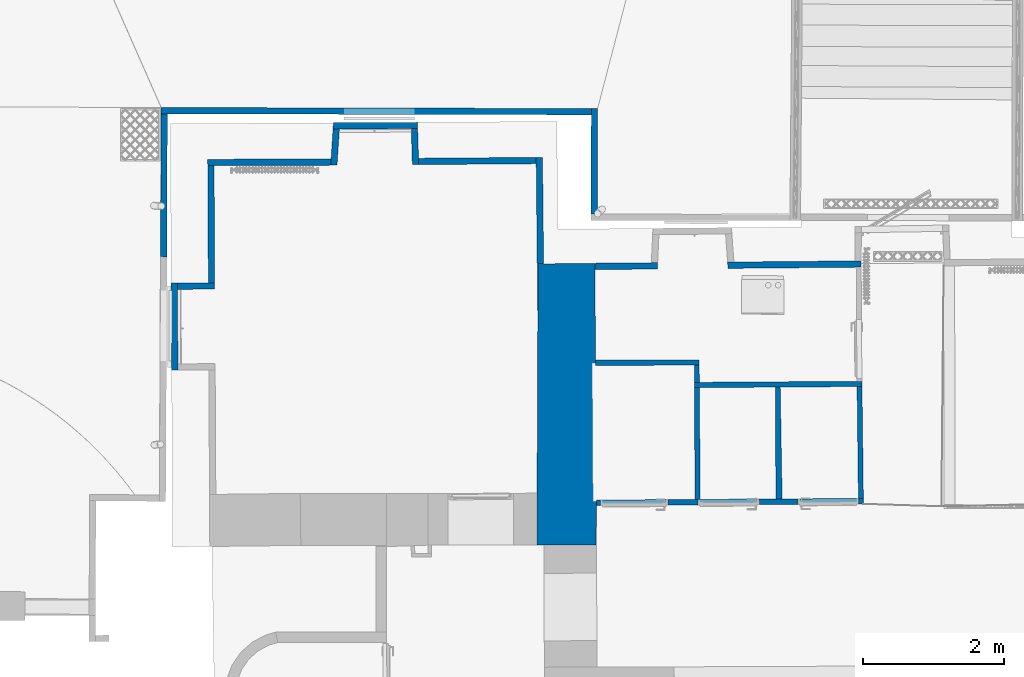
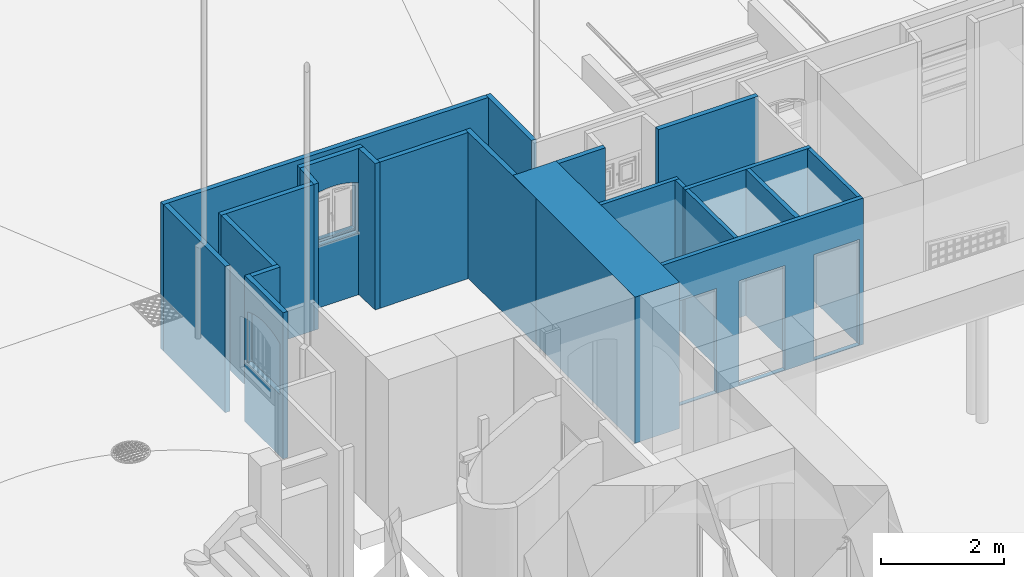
# One storey, part 26 of 133: 22 walls, 6 openings.
"""IFC2X3 building model written with IfcOpenShell, lengths in centimetres."""

from ifc_helpers import new_model, entity, si_unit, converted_unit, point, direction, frame, frame_2d, origin, origin_with_axes, origin_2d_with_axis, place, context, subcontext, project, spatial, polyline, circle_curve, trimmed, segment, composite_curve, rectangle, outline, extrude, shape, material, layer, layer_set, layer_usage, type_object, element, save


model = new_model("IFC2X3")

# Units and contexts
model_context = context("Model", 3, precision=0.0001, world=origin(), true_north=direction((0.225632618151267, 0.974212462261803, 0.0)))
body_context = subcontext(model_context, "Body", "Model", "MODEL_VIEW")
footprint_context = subcontext(model_context, "FootPrint", "Model", "MODEL_VIEW")
profile_context = subcontext(model_context, "Profile", "Model", "MODEL_VIEW")
ifc_project = project(units=[si_unit("LENGTHUNIT", "METRE", prefix="CENTI"), si_unit("AREAUNIT", "SQUARE_METRE", prefix="CENTI"), si_unit("VOLUMEUNIT", "CUBIC_METRE", prefix="CENTI"), converted_unit("PLANEANGLEUNIT", "DEGREE", entity("IfcRatioMeasure", 0.0174532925), si_unit("PLANEANGLEUNIT", "RADIAN"), dimensions=[0, 0, 0, 0, 0, 0, 0])], contexts=[model_context])

# Site, building, storey
site_placement = place(None, origin_with_axes())
site = spatial("IfcSite", under=ifc_project, at=site_placement, Name="Default Site", CompositionType="ELEMENT")
building_placement = place(site_placement, origin_with_axes())
building = spatial("IfcBuilding", under=site, at=building_placement, Name="Default Building", CompositionType="ELEMENT")
storey_placement = place(building_placement, frame((0.0, 0.0, -291.400371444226), z_axis=(0.0, 0.0, 1.0), x_axis=(1.0, 0.0, 0.0)))
storey = spatial("IfcBuildingStorey", under=building, at=storey_placement, Name="Rez-de-Jardin", CompositionType="ELEMENT", Elevation=-291.400371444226)

# Walls
ifc_material = material(Name="<aucun>")
ifc_layer_1 = layer(ifc_material, 9.0)
ifc_layer_set_1 = layer_set([ifc_layer_1], Name="default")
ifc_layer_usage_1 = layer_usage(ifc_layer_set_1, "AXIS2", "POSITIVE", -4.5)
wall_type_1 = type_object("IfcWallType", Name="default 90", PredefinedType="NOTDEFINED", material=ifc_layer_set_1)
wall_1_placement = place(storey_placement, frame((-1193.24993686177, 512.636162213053, 7.72715225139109e-12), z_axis=(0.0, 0.0, 1.0), x_axis=(-0.00529728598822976, 0.999985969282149, 0.0)))
element("IfcWallStandardCase", 1, at=wall_1_placement, inside=storey, type_object=wall_type_1, material=ifc_layer_usage_1, Name="Enveloppe 780002", context=body_context, shape_type="SweptSolid", body=[
    extrude(outline(polyline([(175.680894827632, 4.5000000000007), (9.00429015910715, 4.49999999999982), (9.00429015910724, -4.50000000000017), (175.66401218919, -4.49999999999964), (175.680894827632, 4.5000000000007)])), frame((0.0, 0.0, -8.88178419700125e-14), z_axis=(0.0, 0.0, 1.0), x_axis=(1.0, 0.0, 0.0)), (0.0, 0.0, 1.0), 291.413221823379),
])
ifc_layer_usage_2 = layer_usage(ifc_layer_set_1, "AXIS2", "POSITIVE", -4.5)
wall_2_placement = place(storey_placement, frame((-903.160273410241, 689.838524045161, 7.54951656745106e-12), z_axis=(0.0, 0.0, 1.0), x_axis=(-0.0288938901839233, 0.99958248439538, 0.0)))
element("IfcWallStandardCase", 2, at=wall_2_placement, inside=storey, type_object=wall_type_1, material=ifc_layer_usage_2, Name="Enveloppe 778648", context=body_context, shape_type="SweptSolid", body=[
    extrude(outline(polyline([(51.3159571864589, 4.49999999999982), (1.77635683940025e-13, 4.49999999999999), (-0.190743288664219, -4.49999999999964), (51.3159571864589, -4.50000000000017), (51.3159571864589, 4.49999999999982)])), frame((0.0, 0.0, -8.88178419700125e-14), z_axis=(0.0, 0.0, 1.0), x_axis=(1.0, 0.0, 0.0)), (0.0, 0.0, 1.0), 291.413221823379),
])

# Wall, opening
ifc_layer_usage_3 = layer_usage(ifc_layer_set_1, "AXIS2", "POSITIVE", -4.5)
wall_3_placement = place(storey_placement, frame((-1015.65714881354, 744.865025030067, -1.94511073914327e-11), z_axis=(0.0, 0.0, 1.0), x_axis=(0.999982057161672, 0.0059904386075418, 0.0)))
wall_3 = element("IfcWallStandardCase", 3, at=wall_3_placement, inside=storey, type_object=wall_type_1, material=ifc_layer_usage_3, Name="Enveloppe 778649", context=body_context, shape_type="SweptSolid", body=[
    extrude(outline(polyline([(-4.82939525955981, -4.50000000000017), (106.490990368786, -4.49999999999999), (115.4886290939, -4.29385109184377), (115.287149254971, 4.49999999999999), (-4.19307157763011, 4.4999999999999), (-4.82939525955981, -4.50000000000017)])), frame((0.0, 0.0, 4.44089209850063e-14), z_axis=(0.0, 0.0, 1.0), x_axis=(1.0, 0.0, 0.0)), (0.0, 0.0, 1.0), 291.413221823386),
])
opening_1_placement = place(wall_3_placement, frame((7.85032717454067, 1.13686837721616e-13, 126.689228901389), z_axis=(0.0, 0.0, 1.0), x_axis=(-1.0, -5.53376788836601e-16, 0.0)))
cartesian_point_1 = entity("IfcCartesianPoint", [0.0, 0.0, 97.0])
cartesian_point_2 = entity("IfcCartesianPoint", [-97.3437902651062, 8.88178419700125e-14, 97.0])
cartesian_point_3 = entity("IfcCartesianPoint", [-97.3437902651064, -4.49999999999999])
element("IfcOpeningElement", 4, at=opening_1_placement, cuts=wall_3, Name="4294966465_12", ObjectType="Opening", shapes=[
    shape(body_context, "Body", "SweptSolid", [extrude(outline(composite_curve([segment(polyline([(0.0, 97.0), (0.0, -3.00000000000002), (97.3437902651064, -3.00000000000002), (97.3437902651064, 97.0)]), True, "CONTINUOUS"), segment(trimmed(circle_curve(frame_2d((48.6718951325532, -21.0173198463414), x_axis=(1.0, 0.0)), 127.659865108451), [point((97.3437902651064, 97.0))], [point((0.0, 97.0))], True, "CARTESIAN"), True, "CONTINUOUS")], self_intersect=False)), frame((0.0, -14.5, 0.0), z_axis=(0.0, 1.0, 0.0), x_axis=(-1.0, 0.0, 0.0)), (0.0, 0.0, 1.0), 29.0)]),
    shape(profile_context, "Profile", "GeometricCurveSet", [entity("IfcGeometricCurveSet", [entity("IfcCompositeCurve", [entity("IfcCompositeCurveSegment", "CONTINUOUS", True, entity("IfcPolyline", [cartesian_point_1, entity("IfcCartesianPoint", [0.0, 0.0, -2.22044604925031e-14]), entity("IfcCartesianPoint", [-97.3437902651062, 8.88178419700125e-14, -2.22044604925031e-14]), cartesian_point_2])), entity("IfcCompositeCurveSegment", "CONTINUOUS", True, entity("IfcTrimmedCurve", entity("IfcCircle", entity("IfcAxis2Placement3D", entity("IfcCartesianPoint", [-48.6718951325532, 0.0, -21.0173198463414]), entity("IfcDirection", [9.1241405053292e-16, 1.0, 4.60551854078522e-15]), entity("IfcDirection", [1.0, -9.1241405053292e-16, 0.0])), 127.659865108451), [cartesian_point_2], [cartesian_point_1], True, "CARTESIAN"))], False)])]),
    shape(footprint_context, "FootPrint", "GeometricCurveSet", [entity("IfcGeometricCurveSet", [entity("IfcPolyline", [cartesian_point_3, entity("IfcCartesianPoint", [0.0, -4.4999999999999]), entity("IfcCartesianPoint", [0.0, 4.49999999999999]), entity("IfcCartesianPoint", [-97.3437902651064, 4.49999999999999]), cartesian_point_3])])]),
])

# Walls
ifc_layer_usage_4 = layer_usage(ifc_layer_set_1, "AXIS2", "POSITIVE", -4.5)
wall_4_placement = place(storey_placement, frame((-907.693077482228, 694.208367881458, 7.54951656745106e-12), z_axis=(0.0, 0.0, 1.0), x_axis=(0.999970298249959, 0.00770730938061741, 0.0)))
element("IfcWallStandardCase", 5, at=wall_4_placement, inside=storey, type_object=wall_type_1, material=ifc_layer_usage_4, Name="Enveloppe 779014", context=body_context, shape_type="SweptSolid", body=[
    extrude(outline(polyline([(8.81127776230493, 4.49999999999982), (9.00202105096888, -4.50000000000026), (176.184925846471, -4.50000000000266), (176.159779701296, 4.49999999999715), (8.81127776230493, 4.49999999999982)])), frame((0.0, 0.0, 8.88178419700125e-14), z_axis=(0.0, 0.0, 1.0), x_axis=(1.0, 0.0, 0.0)), (0.0, 0.0, 1.0), 291.413221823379),
])
ifc_layer_usage_5 = layer_usage(ifc_layer_set_1, "AXIS2", "POSITIVE", -4.5)
wall_5_placement = place(storey_placement, frame((-1241.77459718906, 516.885189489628, 7.72715225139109e-12), z_axis=(0.0, 0.0, 1.0), x_axis=(0.999986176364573, 0.00525804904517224, 0.0)))
element("IfcWallStandardCase", 6, at=wall_5_placement, inside=storey, type_object=wall_type_1, material=ifc_layer_usage_5, Name="Enveloppe 779636", context=body_context, shape_type="SweptSolid", body=[
    extrude(rectangle(XDim=53.0016477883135, YDim=8.99999999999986, at=origin_2d_with_axis()), frame((26.5008238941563, 4.44089209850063e-13, -4.44089209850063e-14), z_axis=(0.0, 0.0, 1.0), x_axis=(1.0, 1.44545833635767e-14, 0.0)), (0.0, 0.0, 1.0), 291.413221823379),
])

# Wall, opening
ifc_layer_usage_6 = layer_usage(ifc_layer_set_1, "AXIS2", "POSITIVE", -4.5)
wall_6_placement = place(storey_placement, frame((-1245.6698593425, 401.863117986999, -1.94511073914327e-11), z_axis=(0.0, 0.0, 1.0), x_axis=(-0.00525804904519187, 0.999986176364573, 0.0)))
wall_6 = element("IfcWallStandardCase", 7, at=wall_6_placement, inside=storey, type_object=wall_type_1, material=ifc_layer_usage_6, Name="Enveloppe 779637", context=body_context, shape_type="SweptSolid", body=[
    extrude(rectangle(XDim=8.99999999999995, YDim=124.0, at=origin_2d_with_axis()), frame((57.4999999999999, -1.77635683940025e-13, 4.44089209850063e-14), z_axis=(0.0, 0.0, 1.0), x_axis=(1.04083408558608e-16, -1.0, 0.0)), (0.0, 0.0, 1.0), 291.413221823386),
])
opening_2_placement = place(wall_6_placement, frame((4.50000000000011, 0.0, 125.900000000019), z_axis=(0.0, 0.0, 1.0), x_axis=(-1.0, 6.1409211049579e-16, 0.0)))
cartesian_point_4 = entity("IfcCartesianPoint", [0.0, 1.77635683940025e-13, 98.0])
cartesian_point_5 = entity("IfcCartesianPoint", [-106.0, 0.0, 98.0])
cartesian_point_6 = entity("IfcCartesianPoint", [-106.0, -4.49999999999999])
element("IfcOpeningElement", 8, at=opening_2_placement, cuts=wall_6, Name="4294966470_12", ObjectType="Opening", shapes=[
    shape(body_context, "Body", "SweptSolid", [extrude(outline(composite_curve([segment(polyline([(0.0, 98.0), (0.0, -3.0), (106.0, -3.0), (106.0, 98.0)]), True, "CONTINUOUS"), segment(trimmed(circle_curve(frame_2d((52.9999999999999, -16.0601991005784), x_axis=(1.0, 0.0)), 125.772528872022), [point((106.0, 98.0))], [point((0.0, 98.0))], True, "CARTESIAN"), True, "CONTINUOUS")], self_intersect=False)), frame((0.0, -14.5, 0.0), z_axis=(0.0, 1.0, 0.0), x_axis=(-1.0, 0.0, 0.0)), (0.0, 0.0, 1.0), 29.0)]),
    shape(profile_context, "Profile", "GeometricCurveSet", [entity("IfcGeometricCurveSet", [entity("IfcCompositeCurve", [entity("IfcCompositeCurveSegment", "CONTINUOUS", True, entity("IfcPolyline", [cartesian_point_4, entity("IfcCartesianPoint", [0.0, 1.77635683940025e-13, 0.0]), entity("IfcCartesianPoint", [-106.0, 0.0, 0.0]), cartesian_point_5])), entity("IfcCompositeCurveSegment", "CONTINUOUS", True, entity("IfcTrimmedCurve", entity("IfcCircle", entity("IfcAxis2Placement3D", entity("IfcCartesianPoint", [-53.0, 0.0, -16.0601991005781]), entity("IfcDirection", [-1.67580833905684e-15, 1.0, 7.58327708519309e-15]), entity("IfcDirection", [1.0, 1.67580833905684e-15, 0.0])), 125.772528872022), [cartesian_point_5], [cartesian_point_4], True, "CARTESIAN"))], False)])]),
    shape(footprint_context, "FootPrint", "GeometricCurveSet", [entity("IfcGeometricCurveSet", [entity("IfcPolyline", [cartesian_point_6, entity("IfcCartesianPoint", [0.0, -4.49999999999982]), entity("IfcCartesianPoint", [0.0, 4.50000000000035]), entity("IfcCartesianPoint", [-106.0, 4.50000000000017]), cartesian_point_6])])]),
])

# Walls
ifc_layer_usage_7 = layer_usage(ifc_layer_set_1, "AXIS2", "POSITIVE", -4.5)
wall_7_placement = place(storey_placement, frame((-1019.25702082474, 689.212410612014, 7.63833440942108e-12), z_axis=(0.0, 0.0, 1.0), x_axis=(0.0645497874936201, 0.997914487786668, 0.0)))
element("IfcWallStandardCase", 9, at=wall_7_placement, inside=storey, type_object=wall_type_1, material=ifc_layer_usage_7, Name="Enveloppe 779021", context=body_context, shape_type="SweptSolid", body=[
    extrude(outline(polyline([(-0.615019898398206, 4.49999999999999), (-0.00192871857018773, -4.50000000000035), (51.5758496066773, -4.49999999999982), (50.9395259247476, 4.50000000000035), (-0.615019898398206, 4.49999999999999)])), frame((0.0, 0.0, -8.88178419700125e-14), z_axis=(0.0, 0.0, 1.0), x_axis=(1.0, 0.0, 0.0)), (0.0, 0.0, 1.0), 291.413221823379),
])
ifc_layer_usage_8 = layer_usage(ifc_layer_set_1, "AXIS2", "POSITIVE", -4.5)
wall_8_placement = place(storey_placement, frame((-1189.6906944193, 692.821539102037, 7.63833440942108e-12), z_axis=(0.0, 0.0, 1.0), x_axis=(0.999994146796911, 0.00342145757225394, 0.0)))
element("IfcWallStandardCase", 10, at=wall_8_placement, inside=storey, type_object=wall_type_1, material=ifc_layer_usage_8, Name="Enveloppe 779337", context=body_context, shape_type="SweptSolid", body=[
    extrude(outline(polyline([(-9.02214315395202, 4.4999999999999), (-9.00526051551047, -4.49999999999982), (165.888933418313, -4.50000000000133), (166.502024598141, 4.49999999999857), (-9.02214315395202, 4.4999999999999)])), origin_with_axes(), (0.0, 0.0, 1.0), 291.413221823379),
])
ifc_layer_usage_9 = layer_usage(ifc_layer_set_1, "AXIS2", "POSITIVE", -4.5)
wall_9_placement = place(storey_placement, frame((-458.642933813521, 546.675975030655, -1.94511073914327e-11), z_axis=(0.0, 0.0, 1.0), x_axis=(0.999959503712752, 0.0089994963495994, 0.0)))
element("IfcWallStandardCase", 11, at=wall_9_placement, inside=storey, type_object=wall_type_1, material=ifc_layer_usage_9, Name="Enveloppe 579415", context=body_context, shape_type="SweptSolid", body=[
    extrude(outline(polyline([(-0.572990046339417, 4.4999999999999), (0.0027149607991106, -4.4999999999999), (189.353123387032, -4.49999999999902), (189.364011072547, -0.0336520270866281), (189.290404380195, -0.0329895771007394), (189.375066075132, 4.50000000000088), (-0.572990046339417, 4.4999999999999)])), frame((0.0, 0.0, 4.44089209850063e-14), z_axis=(0.0, 0.0, 1.0), x_axis=(1.0, 0.0, 0.0)), (0.0, 0.0, 1.0), 291.413221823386),
])
ifc_layer_usage_10 = layer_usage(ifc_layer_set_1, "AXIS2", "POSITIVE", -4.5)
wall_10_placement = place(storey_placement, frame((-647.960978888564, 544.972138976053, -1.94511073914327e-11), z_axis=(0.0, 0.0, 1.0), x_axis=(0.999959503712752, 0.0089994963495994, 0.0)))
element("IfcWallStandardCase", 12, at=wall_10_placement, inside=storey, type_object=wall_type_1, material=ifc_layer_usage_10, Name="Enveloppe 579867", context=body_context, shape_type="SweptSolid", body=[
    extrude(outline(polyline([(3.5527136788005e-13, -4.50000000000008), (88.7587527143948, -4.49999999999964), (89.2633559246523, 4.50000000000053), (0.118259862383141, 4.49999999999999), (3.5527136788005e-13, -4.50000000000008)])), frame((0.0, 0.0, 8.88178419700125e-14), z_axis=(0.0, 0.0, 1.0), x_axis=(1.0, 0.0, 0.0)), (0.0, 0.0, 1.0), 291.413221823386),
])
ifc_layer_usage_11 = layer_usage(ifc_layer_set_1, "AXIS2", "POSITIVE", -4.5)
wall_11_placement = place(storey_placement, frame((-725.400856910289, 540.844583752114, -1.94511073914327e-11), z_axis=(0.0, 0.0, 1.0), x_axis=(-0.0105012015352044, 0.999944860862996, 0.0)))
element("IfcWallStandardCase", 13, at=wall_11_placement, inside=storey, type_object=wall_type_1, material=ifc_layer_usage_11, Name="Enveloppe 52993", context=body_context, shape_type="SweptSolid", body=[
    extrude(outline(polyline([(159.277406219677, 4.49999999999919), (-66.9903214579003, 4.50000000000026), (8.02371911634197, 3.40164055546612), (8.02371911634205, -4.49999999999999), (159.252260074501, -4.5000000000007), (159.277406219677, 4.49999999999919)])), frame((0.0, 0.0, 8.88178419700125e-14), z_axis=(0.0, 0.0, 1.0), x_axis=(1.0, 0.0, 0.0)), (0.0, 0.0, 1.0), 291.413221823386),
])
ifc_layer_2 = layer(ifc_material, 7.0)
ifc_layer_set_2 = layer_set([ifc_layer_2], Name="default")
ifc_layer_usage_12 = layer_usage(ifc_layer_set_2, "AXIS2", "POSITIVE", -3.5)
wall_type_2 = type_object("IfcWallType", Name="default 70", PredefinedType="NOTDEFINED", material=ifc_layer_set_2)
wall_12_placement = place(storey_placement, frame((-385.216144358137, 214.18225255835, -1.94511073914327e-11), z_axis=(0.0, 0.0, 1.0), x_axis=(-0.0167108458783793, 0.999860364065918, 0.0)))
element("IfcWallStandardCase", 14, at=wall_12_placement, inside=storey, type_object=wall_type_2, material=ifc_layer_usage_12, Name="Enveloppe 71973", context=body_context, shape_type="SweptSolid", body=[
    extrude(outline(polyline([(159.199361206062, 3.49920739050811), (0.102518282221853, 5.27198290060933), (0.0025182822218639, -3.49999999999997), (159.128228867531, -3.50000000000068), (159.199361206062, 3.49920739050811)])), frame((0.0, 0.0, 8.88178419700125e-14), z_axis=(0.0, 0.0, 1.0), x_axis=(1.0, 0.0, 0.0)), (0.0, 0.0, 1.0), 291.413221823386),
])
ifc_layer_usage_13 = layer_usage(ifc_layer_set_2, "AXIS2", "POSITIVE", -3.5)
wall_13_placement = place(storey_placement, frame((-502.976457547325, 376.171615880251, -1.94511073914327e-11), z_axis=(0.0, 0.0, 1.0), x_axis=(-0.00556476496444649, 0.999984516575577, 0.0)))
element("IfcWallStandardCase", 15, at=wall_13_placement, inside=storey, type_object=wall_type_2, material=ifc_layer_usage_13, Name="Enveloppe 54613", context=body_context, shape_type="SweptSolid", body=[
    extrude(outline(polyline([(28.5079009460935, 3.49999999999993), (3.89503372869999, 3.5000000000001), (3.90192359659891, -3.50000000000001), (28.501300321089, -3.5000000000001), (28.5079009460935, 3.49999999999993)])), frame((0.0, 0.0, 8.88178419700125e-14), z_axis=(0.0, 0.0, 1.0), x_axis=(1.0, 0.0, 0.0)), (0.0, 0.0, 1.0), 291.413221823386),
])
ifc_layer_usage_14 = layer_usage(ifc_layer_set_2, "AXIS2", "POSITIVE", -3.5)
wall_14_placement = place(storey_placement, frame((-269.523669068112, 206.437904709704, -1.94511073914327e-11), z_axis=(0.0, 0.0, 1.0), x_axis=(-0.0121516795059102, 0.999926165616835, 0.0)))
element("IfcWallStandardCase", 16, at=wall_14_placement, inside=storey, type_object=wall_type_2, material=ifc_layer_usage_14, Name="Enveloppe 54735", context=body_context, shape_type="SweptSolid", body=[
    extrude(outline(polyline([(167.67967550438, 3.50000000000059), (8.49693937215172, 3.50000000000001), (8.45367382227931, -3.49999999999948), (167.640454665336, -3.49999999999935), (167.67967550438, 3.50000000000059)])), frame((0.0, 0.0, 8.88178419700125e-14), z_axis=(0.0, 0.0, 1.0), x_axis=(1.0, 0.0, 0.0)), (0.0, 0.0, 1.0), 291.413221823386),
])
ifc_layer_3 = layer(ifc_material, 7.5)
ifc_layer_set_3 = layer_set([ifc_layer_3], Name="default")
ifc_layer_usage_15 = layer_usage(ifc_layer_set_3, "AXIS2", "POSITIVE", -3.75)
wall_type_3 = type_object("IfcWallType", Name="default 75", PredefinedType="NOTDEFINED", material=ifc_layer_set_3)
wall_15_placement = place(storey_placement, frame((-648.502742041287, 407.753943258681, -1.94511073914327e-11), z_axis=(0.0, 0.0, 1.0), x_axis=(0.999989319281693, 0.004621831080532, 0.0)))
element("IfcWallStandardCase", 17, at=wall_15_placement, inside=storey, type_object=wall_type_3, material=ifc_layer_usage_15, Name="Enveloppe 54383", context=body_context, shape_type="SweptSolid", body=[
    extrude(outline(polyline([(1.44303624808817, -3.75000000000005), (148.851885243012, -3.75000000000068), (148.844813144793, 3.74999999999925), (1.50874886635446, 3.75000000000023), (1.44303624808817, -3.75000000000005)])), frame((0.0, 0.0, 1.33226762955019e-13), z_axis=(0.0, 0.0, 1.0), x_axis=(1.0, 0.0, 0.0)), (0.0, 0.0, 1.0), 291.413221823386),
])
ifc_layer_usage_16 = layer_usage(ifc_layer_set_3, "AXIS2", "POSITIVE", -3.75)
wall_16_placement = place(storey_placement, frame((-499.277511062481, 376.344320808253, -1.94511073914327e-11), z_axis=(0.0, 0.0, 1.0), x_axis=(0.999978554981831, 0.00654901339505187, 0.0)))
element("IfcWallStandardCase", 18, at=wall_16_placement, inside=storey, type_object=wall_type_3, material=ifc_layer_usage_16, Name="Enveloppe 54584", context=body_context, shape_type="SweptSolid", body=[
    extrude(outline(polyline([(107.780046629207, 3.7500000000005), (-7.19616276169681, 3.74999999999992), (-7.20354476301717, -3.75000000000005), (107.780046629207, -3.74999999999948), (231.196869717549, -3.7499999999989), (231.175797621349, 0.00963236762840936), (231.11486532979, 0.0100314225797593), (231.114818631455, 3.75008740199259), (107.780046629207, 3.7500000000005)])), frame((0.0, 0.0, 8.88178419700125e-14), z_axis=(0.0, 0.0, 1.0), x_axis=(1.0, 0.0, 0.0)), (0.0, 0.0, 1.0), 291.413221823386),
])
ifc_layer_4 = layer(ifc_material, 7.2)
ifc_layer_set_4 = layer_set([ifc_layer_4], Name="default")
ifc_layer_usage_17 = layer_usage(ifc_layer_set_4, "AXIS2", "POSITIVE", -3.6)
wall_type_4 = type_object("IfcWallType", Name="default 72", PredefinedType="NOTDEFINED", material=ifc_layer_set_4)
wall_17_placement = place(storey_placement, frame((-501.971362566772, 213.526935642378, -1.94511073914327e-11), z_axis=(0.0, 0.0, 1.0), x_axis=(-0.0055647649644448, 0.999984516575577, 0.0)))
element("IfcWallStandardCase", 19, at=wall_17_placement, inside=storey, type_object=wall_type_4, material=ifc_layer_usage_17, Name="Enveloppe 54734", context=body_context, shape_type="SweptSolid", body=[
    extrude(outline(polyline([(159.042785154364, 3.60000000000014), (-0.00322153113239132, 3.59999999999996), (-0.000294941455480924, -3.60000000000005), (159.049871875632, -3.59999999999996), (159.042785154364, 3.60000000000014)])), frame((0.0, 0.0, 1.33226762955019e-13), z_axis=(0.0, 0.0, 1.0), x_axis=(1.0, 0.0, 0.0)), (0.0, 0.0, 1.0), 291.413221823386),
])
ifc_layer_usage_18 = layer_usage(ifc_layer_set_1, "AXIS2", "POSITIVE", -4.5)
wall_type_5 = type_object("IfcWallType", Name="default 90", PredefinedType="NOTDEFINED", material=ifc_layer_set_1)
wall_18_placement = place(storey_placement, frame((-648.999354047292, 619.337880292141, -1.94511073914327e-11), z_axis=(0.0, 0.0, 1.0), x_axis=(0.00250515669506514, 0.999996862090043, 0.0)))
element("IfcWallStandardCase", 20, at=wall_18_placement, inside=storey, type_object=wall_type_5, material=ifc_layer_usage_18, Name="Enveloppe 310165", context=body_context, shape_type="SweptSolid", body=[
    extrude(outline(polyline([(-0.0117553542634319, 4.49999999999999), (-8.88178419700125e-14, -4.49999999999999), (150.213871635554, -4.49999999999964), (150.212994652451, 4.50087689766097), (-0.0117553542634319, 4.49999999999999)])), frame((0.0, 0.0, 8.88178419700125e-14), z_axis=(0.0, 0.0, 1.0), x_axis=(1.0, 0.0, 0.0)), (0.0, 0.0, 1.0), 291.413221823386),
])

# Wall, opening
ifc_layer_usage_19 = layer_usage(ifc_layer_set_1, "AXIS2", "POSITIVE", -4.5)
wall_19_placement = place(storey_placement, frame((-644.130834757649, 765.040013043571, -1.94511073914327e-11), z_axis=(0.0, 0.0, 1.0), x_axis=(-0.999997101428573, 0.0024077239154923, 0.0)))
wall_19 = element("IfcWallStandardCase", 21, at=wall_19_placement, inside=storey, type_object=wall_type_5, material=ifc_layer_usage_19, Name="Enveloppe 310224", context=body_context, shape_type="SweptSolid", body=[
    extrude(rectangle(XDim=9.00000000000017, YDim=612.014565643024, at=origin_2d_with_axis()), frame((315.011218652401, 1.77635683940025e-13, 8.88178419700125e-14), z_axis=(0.0, 0.0, 1.0), x_axis=(9.89269430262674e-15, -1.0, 0.0)), (0.0, 0.0, 1.0), 291.413221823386),
])
opening_3_placement = place(wall_19_placement, frame((260.569789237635, 2.27373675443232e-13, 119.027232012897), z_axis=(0.0, 0.0, 1.0), x_axis=(1.0, 6.38811920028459e-16, 0.0)))
cartesian_point_7 = entity("IfcCartesianPoint", [0.0, 0.0, 102.580862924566])
cartesian_point_8 = entity("IfcCartesianPoint", [100.035094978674, -8.88178419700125e-14, 102.580862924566])
cartesian_point_9 = entity("IfcCartesianPoint", [100.035094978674, 4.49999999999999])
element("IfcOpeningElement", 22, at=opening_3_placement, cuts=wall_19, Name="4294966549_12", ObjectType="Opening", shapes=[
    shape(body_context, "Body", "SweptSolid", [extrude(outline(composite_curve([segment(polyline([(1.77635683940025e-13, 102.580862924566), (1.77635683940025e-13, 0.0), (100.035094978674, 0.0), (100.035094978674, 102.580862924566)]), True, "CONTINUOUS"), segment(trimmed(circle_curve(frame_2d((50.0175474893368, 0.0439139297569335), x_axis=(1.0, 0.0)), 114.085849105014), [point((100.035094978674, 102.580862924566))], [point((1.77635683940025e-13, 102.580862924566))], True, "CARTESIAN"), True, "CONTINUOUS")], self_intersect=False)), frame((0.0, 14.5, 0.0), z_axis=(0.0, -1.0, 0.0), x_axis=(1.0, 0.0, 0.0)), (0.0, 0.0, 1.0), 29.0)]),
    shape(profile_context, "Profile", "GeometricCurveSet", [entity("IfcGeometricCurveSet", [entity("IfcCompositeCurve", [entity("IfcCompositeCurveSegment", "CONTINUOUS", True, entity("IfcPolyline", [cartesian_point_7, entity("IfcCartesianPoint", [0.0, 0.0, 0.0]), entity("IfcCartesianPoint", [100.035094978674, -8.88178419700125e-14, 0.0]), cartesian_point_8])), entity("IfcCompositeCurveSegment", "CONTINUOUS", True, entity("IfcTrimmedCurve", entity("IfcCircle", entity("IfcAxis2Placement3D", entity("IfcCartesianPoint", [50.017547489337, 0.0, 0.0439139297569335]), entity("IfcDirection", [-8.87866823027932e-16, -1.0, 3.84529440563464e-15]), entity("IfcDirection", [-1.0, 8.87866823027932e-16, 0.0])), 114.085849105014), [cartesian_point_8], [cartesian_point_7], True, "CARTESIAN"))], False)])]),
    shape(footprint_context, "FootPrint", "GeometricCurveSet", [entity("IfcGeometricCurveSet", [entity("IfcPolyline", [cartesian_point_9, entity("IfcCartesianPoint", [1.77635683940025e-13, 4.49999999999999]), entity("IfcCartesianPoint", [0.0, -4.49999999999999]), entity("IfcCartesianPoint", [100.035094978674, -4.50000000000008]), cartesian_point_9])])]),
])

# Walls
ifc_layer_usage_20 = layer_usage(ifc_layer_set_1, "AXIS2", "POSITIVE", -4.5)
wall_20_placement = place(storey_placement, frame((-1261.29860356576, 558.822806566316, -1.94511073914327e-11), z_axis=(0.0, 0.0, 1.0), x_axis=(0.00315065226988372, 0.99999503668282, 0.0)))
element("IfcWallStandardCase", 23, at=wall_20_placement, inside=storey, type_object=wall_type_5, material=ifc_layer_usage_20, Name="Enveloppe 310283", context=body_context, shape_type="SweptSolid", body=[
    extrude(outline(polyline([(-0.0916110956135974, 4.50113311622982), (-0.107162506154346, -4.49888265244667), (203.205977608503, -4.49999999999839), (203.199291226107, 4.50000000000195), (-0.0916110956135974, 4.50113311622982)])), frame((0.0, 0.0, 1.77635683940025e-13), z_axis=(0.0, 0.0, 1.0), x_axis=(1.0, 0.0, 0.0)), (0.0, 0.0, 1.0), 291.413221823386),
])
ifc_layer_5 = layer(ifc_material, 81.0)
ifc_layer_set_5 = layer_set([ifc_layer_5], Name="default")
ifc_layer_usage_21 = layer_usage(ifc_layer_set_5, "AXIS2", "POSITIVE", -40.5)
wall_type_6 = type_object("IfcWallType", Name="default 810", PredefinedType="NOTDEFINED", material=ifc_layer_set_5)
wall_21_placement = place(storey_placement, frame((-689.736892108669, 222.554402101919, -1.94511073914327e-11), z_axis=(0.0, 0.0, 1.0), x_axis=(0.00413959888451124, 0.999991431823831, 0.0)))
element("IfcWallStandardCase", 24, at=wall_21_placement, inside=storey, type_object=wall_type_6, material=ifc_layer_usage_21, Name="Enveloppe 53024", context=body_context, shape_type="SweptSolid", body=[
    extrude(outline(polyline([(325.887302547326, 32.5942095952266), (326.22856129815, 32.5992063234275), (326.112877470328, 40.4999999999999), (180.9090948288, 40.5), (-73.8473600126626, 40.5), (-73.7735083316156, 30.5598028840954), (-73.9294196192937, 30.5591574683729), (-73.320985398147, -43.8636660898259), (0.0, -43.8636660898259), (181.631434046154, -41.9429808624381), (189.131355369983, -41.9429823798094), (189.131027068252, -41.8636754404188), (318.088298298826, -40.5), (327.089075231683, -40.5), (325.887302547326, 32.5942095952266)])), frame((0.0, 0.0, 1.33226762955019e-13), z_axis=(0.0, 0.0, 1.0), x_axis=(1.0, 0.0, 0.0)), (0.0, 0.0, 1.0), 291.413221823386),
])

# Wall, openings
ifc_layer_6 = layer(ifc_material, 8.0)
ifc_layer_set_6 = layer_set([ifc_layer_6], Name="default")
ifc_layer_usage_22 = layer_usage(ifc_layer_set_6, "AXIS2", "POSITIVE", -4.0)
wall_type_7 = type_object("IfcWallType", Name="default 80", PredefinedType="NOTDEFINED", material=ifc_layer_set_6)
wall_22_placement = place(storey_placement, frame((-683.7582252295, 208.439595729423, -1.94511073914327e-11), z_axis=(0.0, 0.0, 1.0), x_axis=(0.9999821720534, 0.00597122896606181, 0.0)))
wall_22 = element("IfcWallStandardCase", 25, at=wall_22_placement, inside=storey, type_object=wall_type_7, material=ifc_layer_usage_22, Name="Enveloppe 54675", context=body_context, shape_type="SweptSolid", body=[
    extrude(outline(polyline([(293.195051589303, 4.00000000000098), (178.110746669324, 4.00000000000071), (37.9236402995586, 4.00000000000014), (37.9081547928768, -3.99999999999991), (178.110746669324, -3.99999999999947), (293.195051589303, -3.99999999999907), (417.712348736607, -3.99999999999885), (417.662902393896, 4.00000000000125), (293.195051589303, 4.00000000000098)])), origin_with_axes(), (0.0, 0.0, 1.0), 291.413221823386),
])
opening_4_placement = place(wall_22_placement, frame((43.8719847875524, 1.70530256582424e-13, 1.31164938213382), z_axis=(0.0, 0.0, 1.0), x_axis=(-1.0, -3.26301485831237e-15, 0.0)))
cartesian_point_10 = entity("IfcCartesianPoint", [0.0, 0.0, 208.0])
cartesian_point_11 = entity("IfcCartesianPoint", [-96.0, -4.0])
element("IfcOpeningElement", 26, at=opening_4_placement, cuts=wall_22, Name="4294966329_11", ObjectType="Opening", shapes=[
    shape(body_context, "Body", "SweptSolid", [extrude(outline(polyline([(0.0, 208.0), (0.0, 0.0), (95.9999999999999, 0.0), (96.0, 208.0), (0.0, 208.0)])), frame((0.0, -14.0, 0.0), z_axis=(0.0, 1.0, 0.0), x_axis=(-1.0, 0.0, 0.0)), (0.0, 0.0, 1.0), 28.0)]),
    shape(profile_context, "Profile", "GeometricCurveSet", [entity("IfcGeometricCurveSet", [entity("IfcPolyline", [cartesian_point_10, entity("IfcCartesianPoint", [8.88178419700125e-14, 0.0, 0.0]), entity("IfcCartesianPoint", [-96.0, 0.0, 0.0]), entity("IfcCartesianPoint", [-96.0, 0.0, 208.0]), cartesian_point_10])])]),
    shape(footprint_context, "FootPrint", "GeometricCurveSet", [entity("IfcGeometricCurveSet", [entity("IfcPolyline", [cartesian_point_11, entity("IfcCartesianPoint", [0.0, -4.0]), entity("IfcCartesianPoint", [0.0, 4.0]), entity("IfcCartesianPoint", [-96.0, 4.00000000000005]), cartesian_point_11])])]),
])
opening_5_placement = place(wall_22_placement, frame((182.558566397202, 6.82121026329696e-13, 1.31164938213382), z_axis=(0.0, 0.0, 1.0), x_axis=(-1.0, -2.86923262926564e-15, 0.0)))
cartesian_point_12 = entity("IfcCartesianPoint", [0.0, 4.44089209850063e-14, 208.0])
cartesian_point_13 = entity("IfcCartesianPoint", [-87.0, -3.99999999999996])
element("IfcOpeningElement", 27, at=opening_5_placement, cuts=wall_22, Name="4294966328_11", ObjectType="Opening", shapes=[
    shape(body_context, "Body", "SweptSolid", [extrude(outline(polyline([(-8.88178419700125e-14, 208.0), (-8.88178419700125e-14, 4.44089209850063e-14), (86.9999999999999, 4.44089209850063e-14), (87.0, 208.0), (-8.88178419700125e-14, 208.0)])), frame((0.0, -14.0, 0.0), z_axis=(0.0, 1.0, 0.0), x_axis=(-1.0, 0.0, 0.0)), (0.0, 0.0, 1.0), 28.0)]),
    shape(profile_context, "Profile", "GeometricCurveSet", [entity("IfcGeometricCurveSet", [entity("IfcPolyline", [cartesian_point_12, entity("IfcCartesianPoint", [0.0, 4.44089209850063e-14, 4.44089209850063e-14]), entity("IfcCartesianPoint", [-87.0, 8.88178419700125e-14, 4.44089209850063e-14]), entity("IfcCartesianPoint", [-87.0, 8.88178419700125e-14, 208.0]), cartesian_point_12])])]),
    shape(footprint_context, "FootPrint", "GeometricCurveSet", [entity("IfcGeometricCurveSet", [entity("IfcPolyline", [cartesian_point_13, entity("IfcCartesianPoint", [8.88178419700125e-14, -3.99999999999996]), entity("IfcCartesianPoint", [8.88178419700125e-14, 4.00000000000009]), entity("IfcCartesianPoint", [-87.0, 4.00000000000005]), cartesian_point_13])])]),
])
opening_6_placement = place(wall_22_placement, frame((324.662768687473, 1.05160324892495e-12, 1.31164938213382), z_axis=(0.0, 0.0, 1.0), x_axis=(-1.0, -2.97244867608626e-15, 0.0)))
cartesian_point_14 = entity("IfcCartesianPoint", [0.0, 0.0, 210.0])
cartesian_point_15 = entity("IfcCartesianPoint", [-86.0, -4.0])
element("IfcOpeningElement", 28, at=opening_6_placement, cuts=wall_22, Name="4294966324_11", ObjectType="Opening", shapes=[
    shape(body_context, "Body", "SweptSolid", [extrude(outline(polyline([(0.0, 210.0), (0.0, 0.0), (86.0, 0.0), (86.0, 210.0), (0.0, 210.0)])), frame((0.0, -14.0, 0.0), z_axis=(0.0, 1.0, 0.0), x_axis=(-1.0, 0.0, 0.0)), (0.0, 0.0, 1.0), 28.0)]),
    shape(profile_context, "Profile", "GeometricCurveSet", [entity("IfcGeometricCurveSet", [entity("IfcPolyline", [cartesian_point_14, entity("IfcCartesianPoint", [0.0, 0.0, 0.0]), entity("IfcCartesianPoint", [-86.0, 0.0, 0.0]), entity("IfcCartesianPoint", [-86.0, 0.0, 210.0]), cartesian_point_14])])]),
    shape(footprint_context, "FootPrint", "GeometricCurveSet", [entity("IfcGeometricCurveSet", [entity("IfcPolyline", [cartesian_point_15, entity("IfcCartesianPoint", [0.0, -4.00000000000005]), entity("IfcCartesianPoint", [0.0, 4.0]), entity("IfcCartesianPoint", [-86.0, 4.0]), cartesian_point_15])])]),
])

save(model, "model.ifc")
